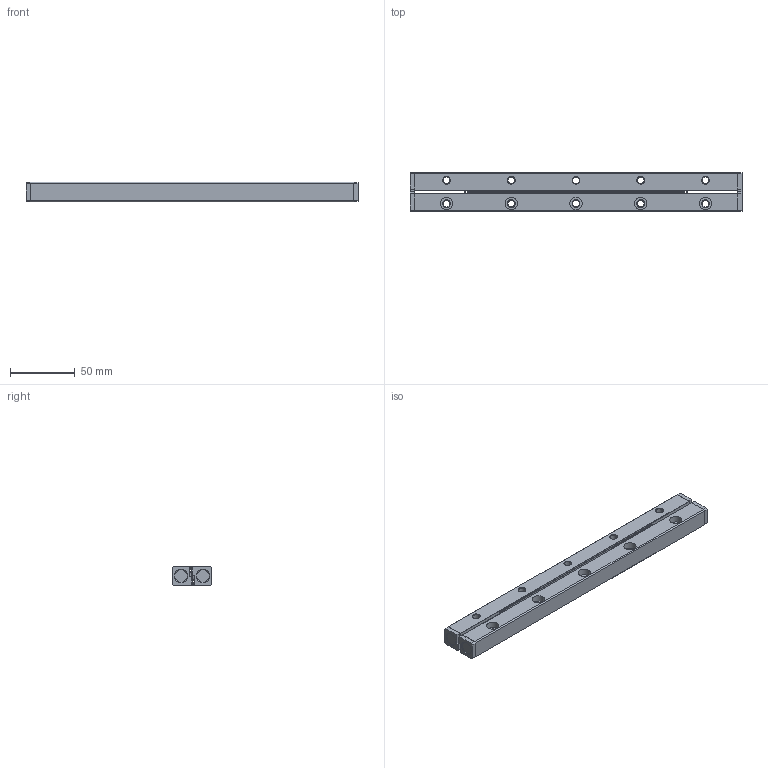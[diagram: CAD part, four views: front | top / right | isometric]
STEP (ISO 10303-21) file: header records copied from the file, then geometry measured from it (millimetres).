
FILE_DESCRIPTION(/* description */ ('Unknown'),/* implementation_level */ '2;1');
FILE_NAME(/* name */ 'VR6-250x17Z',/* time_stamp */ '2025-06-12T09:18:08+08:00',/* author */ ('Unknown'),/* organization */ ('Unknown'),/* preprocessor_version */ 'ST-DEVELOPER v18.102',/* originating_system */ 'Solid Edge',/* authorisation */ 'Unknown');
FILE_SCHEMA (('AUTOMOTIVE_DESIGN {1 0 10303 214 3 1 1}'));
Length unit declared in the file: millimetre
Products named in the file (3): VR6-250x17Z; VR6-250_17Z Roller guide; VR6-250_17Z Roller cage
Assembly tree (3 placements, depth 2):
  VR6-250x17Z
    VR6-250_17Z Roller guide  x2
    VR6-250_17Z Roller cage
Bounding box: 256.4 x 30 x 15 mm (x, y, z)
Volume: 97936.3 mm3; surface area: 40095.9 mm2
Topology: 3 solids, 3 shells, 325 faces, 853 edges, 548 vertices
Faces by surface type: plane 230, cone 58, cylinder 37
Full cylindrical faces by diameter (mm): 5.2 x10, 6 x17, 9.5 x10
Entity records: 7976 total; most frequent: CARTESIAN_POINT 1346, DIRECTION 1329, ORIENTED_EDGE 1258, EDGE_CURVE 629, LINE 459, VECTOR 459, VERTEX_POINT 452, AXIS2_PLACEMENT_3D 435
